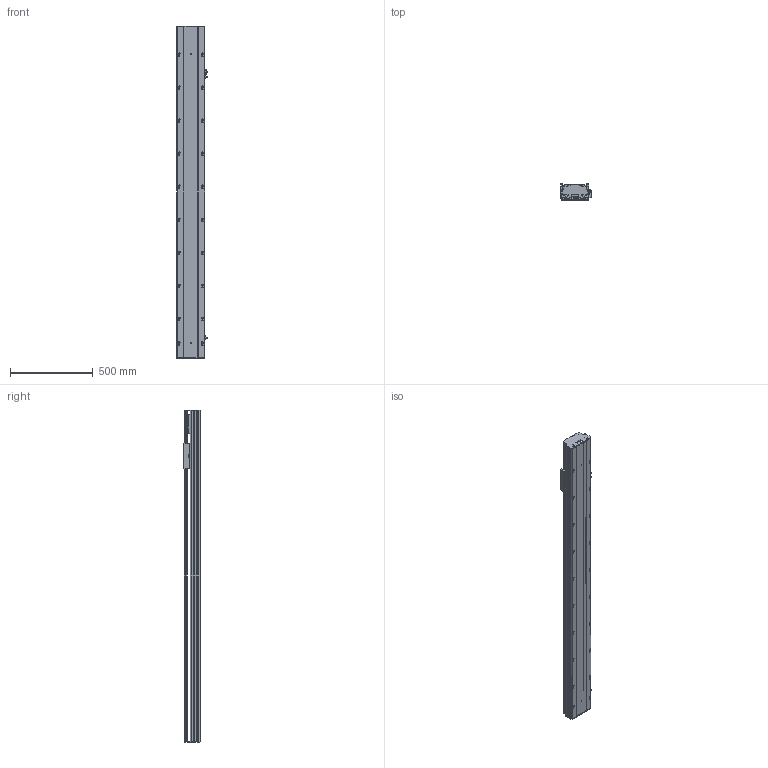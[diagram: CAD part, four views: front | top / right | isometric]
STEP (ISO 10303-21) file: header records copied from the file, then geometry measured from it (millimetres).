
FILE_DESCRIPTION (( 'STEP AP203' ), '1' );
FILE_NAME ('Y170-D10-S1600-M-P400W.STEP', '2020-01-22T14:16:57', ( '微软用户' ), ( '微软中国' ), 'SwSTEP 2.0', 'SolidWorks 2017', '' );
FILE_SCHEMA (( 'CONFIG_CONTROL_DESIGN' ));
Length unit declared in the file: millimetre
Products named in the file (10): Y170-陔遴奻裔-M; YD-Y100-135-新外置传感挡片(通用）; Y170-D10-S1600-M-P400W; Y100-135俋离換覜ん; 135-盓傅釱-FK15; Y170耜裔--準---; Y170--雄赽釱-梓--; 170--掛极-M; Y170耜裔--準---M; san松下电机400不带刹车----
Assembly tree (11 placements, depth 2):
  Y170-D10-S1600-M-P400W
    YD-Y100-135-新外置传感挡片(通用）
    Y100-135俋离換覜ん  x3
    135-盓傅釱-FK15
    Y170耜裔--準---
    Y170--雄赽釱-梓--
    170--掛极-M
    Y170耜裔--準---M
    san松下电机400不带刹车----
    Y170-陔遴奻裔-M
Bounding box: 183.5 x 97 x 2011 mm (x, y, z)
Volume: 8272594.7 mm3; surface area: 2982111.5 mm2
Topology: 11 solids, 11 shells, 833 faces, 2420 edges, 1604 vertices
Faces by surface type: cylinder 447, plane 384, torus 2
Entity records: 27660 total; most frequent: CARTESIAN_POINT 5137, DIRECTION 4542, ORIENTED_EDGE 4504, EDGE_CURVE 2252, AXIS2_PLACEMENT_3D 1625, VERTEX_POINT 1492, VECTOR 1292, LINE 1292
